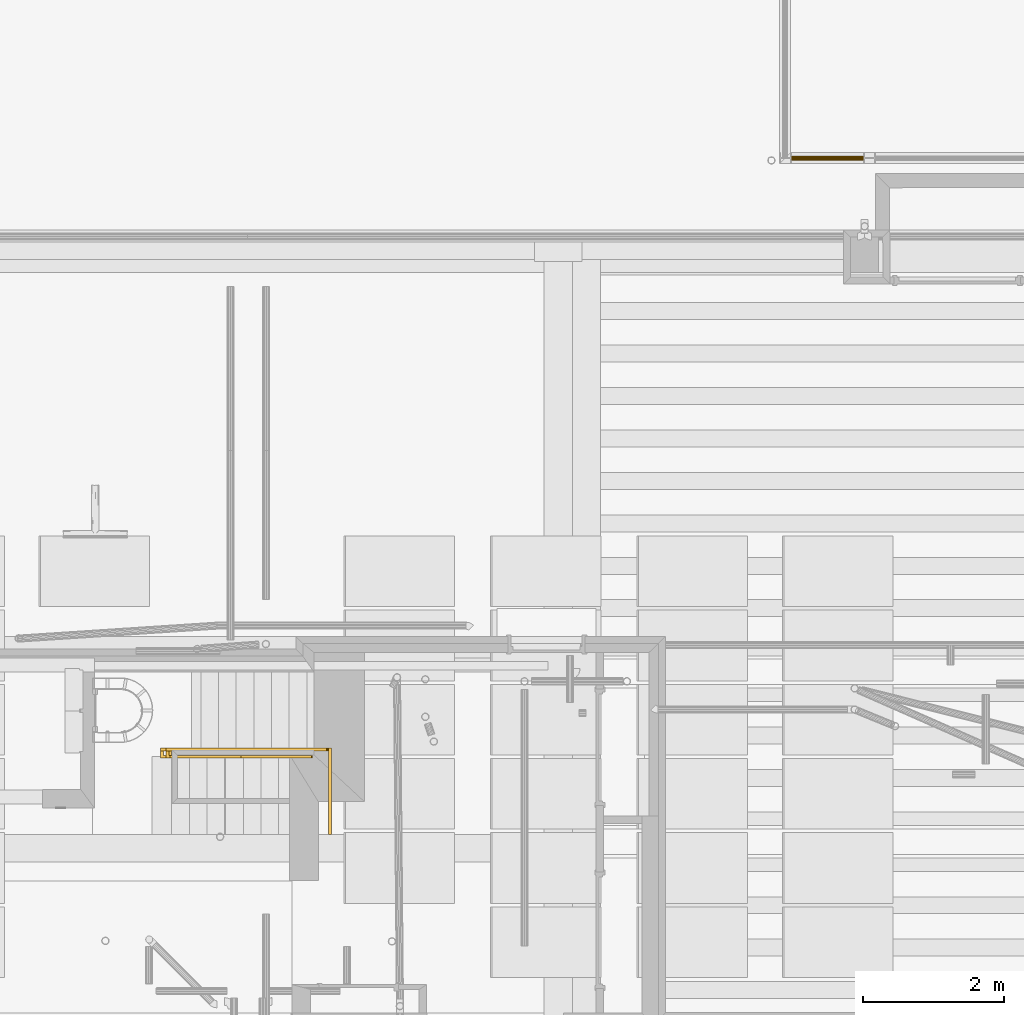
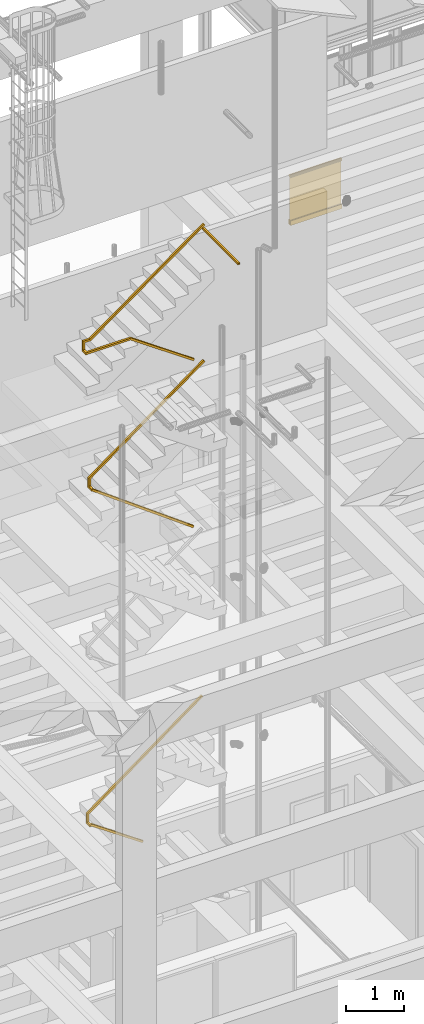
# One storey, part 30 of 106: 5 railings.
"""IFC2X3 building model written with IfcOpenShell, lengths in metres."""

from ifc_helpers import new_model, entity, si_unit, converted_unit, derived_unit, money_unit, direction, frame, origin_with_axes, place, context, subcontext, project, spatial, faceted_brep, material, type_object, element, save


model = new_model("IFC2X3")

# Units and contexts
model_context = context("Model", 3, precision=1e-05, world=origin_with_axes(), true_north=direction((0.0, 1.0)))
body_context = subcontext(model_context, "Body", "Model", "MODEL_VIEW", scale=1.0)
ifc_project = project(units=[si_unit("LENGTHUNIT", "METRE"), si_unit("AREAUNIT", "SQUARE_METRE"), si_unit("VOLUMEUNIT", "CUBIC_METRE"), si_unit("ABSORBEDDOSEUNIT", "GRAY"), si_unit("AMOUNTOFSUBSTANCEUNIT", "MOLE"), si_unit("DOSEEQUIVALENTUNIT", "SIEVERT"), si_unit("ELECTRICCAPACITANCEUNIT", "FARAD"), si_unit("ELECTRICCHARGEUNIT", "COULOMB"), si_unit("ELECTRICCONDUCTANCEUNIT", "SIEMENS"), si_unit("ELECTRICCURRENTUNIT", "AMPERE"), si_unit("ELECTRICRESISTANCEUNIT", "OHM"), si_unit("ELECTRICVOLTAGEUNIT", "VOLT"), si_unit("ENERGYUNIT", "JOULE"), si_unit("FORCEUNIT", "NEWTON"), si_unit("FREQUENCYUNIT", "HERTZ"), si_unit("ILLUMINANCEUNIT", "LUX"), si_unit("INDUCTANCEUNIT", "HENRY"), si_unit("LUMINOUSFLUXUNIT", "LUMEN"), si_unit("LUMINOUSINTENSITYUNIT", "CANDELA"), si_unit("MAGNETICFLUXDENSITYUNIT", "TESLA"), si_unit("MAGNETICFLUXUNIT", "WEBER"), si_unit("MASSUNIT", "GRAM"), converted_unit("PLANEANGLEUNIT", "degree", entity("IfcReal", 0.0174532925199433), si_unit("PLANEANGLEUNIT", "RADIAN"), dimensions=[0, 0, 0, 0, 0, 0, 0]), si_unit("POWERUNIT", "WATT"), si_unit("PRESSUREUNIT", "PASCAL"), si_unit("RADIOACTIVITYUNIT", "BECQUEREL"), si_unit("SOLIDANGLEUNIT", "STERADIAN"), si_unit("THERMODYNAMICTEMPERATUREUNIT", "KELVIN"), si_unit("TIMEUNIT", "SECOND"), derived_unit("ACCELERATIONUNIT", [(si_unit("LENGTHUNIT", "METRE"), 1), (si_unit("TIMEUNIT", "SECOND"), -2)]), derived_unit("ANGULARVELOCITYUNIT", [(converted_unit("PLANEANGLEUNIT", "degree", entity("IfcReal", 0.0174532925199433), si_unit("PLANEANGLEUNIT", "RADIAN"), dimensions=[0, 0, 0, 0, 0, 0, 0]), 1), (si_unit("TIMEUNIT", "SECOND"), -1)]), derived_unit("CURVATUREUNIT", [(converted_unit("PLANEANGLEUNIT", "degree", entity("IfcReal", 0.0174532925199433), si_unit("PLANEANGLEUNIT", "RADIAN"), dimensions=[0, 0, 0, 0, 0, 0, 0]), 1), (si_unit("LENGTHUNIT", "METRE"), -1)]), derived_unit("DYNAMICVISCOSITYUNIT", [(si_unit("PRESSUREUNIT", "PASCAL"), 1), (si_unit("TIMEUNIT", "SECOND"), 1)]), derived_unit("HEATFLUXDENSITYUNIT", [(si_unit("POWERUNIT", "WATT"), 1), (si_unit("LENGTHUNIT", "METRE"), -2)]), derived_unit("HEATINGVALUEUNIT", [(si_unit("ENERGYUNIT", "JOULE"), 1), (si_unit("MASSUNIT", "GRAM"), -1)]), derived_unit("INTEGERCOUNTRATEUNIT", [(si_unit("TIMEUNIT", "SECOND"), -1)]), derived_unit("IONCONCENTRATIONUNIT", [(si_unit("MASSUNIT", "GRAM"), 1), (si_unit("VOLUMEUNIT", "CUBIC_METRE"), -1)]), derived_unit("ISOTHERMALMOISTURECAPACITYUNIT", [(si_unit("VOLUMEUNIT", "CUBIC_METRE"), 1), (si_unit("MASSUNIT", "GRAM"), -1)]), derived_unit("KINEMATICVISCOSITYUNIT", [(si_unit("AREAUNIT", "SQUARE_METRE"), 1), (si_unit("TIMEUNIT", "SECOND"), -1)]), derived_unit("LINEARFORCEUNIT", [(si_unit("FORCEUNIT", "NEWTON"), 1), (si_unit("LENGTHUNIT", "METRE"), -1)]), derived_unit("LINEARMOMENTUNIT", [(si_unit("FORCEUNIT", "NEWTON"), 1), (si_unit("LENGTHUNIT", "METRE"), -1)]), derived_unit("LINEARSTIFFNESSUNIT", [(si_unit("FORCEUNIT", "NEWTON"), 1), (si_unit("LENGTHUNIT", "METRE"), -1)]), derived_unit("LINEARVELOCITYUNIT", [(si_unit("LENGTHUNIT", "METRE"), 1), (si_unit("TIMEUNIT", "SECOND"), -1)]), derived_unit("LUMINOUSINTENSITYDISTRIBUTIONUNIT", [(si_unit("LUMINOUSINTENSITYUNIT", "CANDELA"), 1), (si_unit("LUMINOUSFLUXUNIT", "LUMEN"), -1)]), derived_unit("MASSDENSITYUNIT", [(si_unit("MASSUNIT", "GRAM"), 1), (si_unit("VOLUMEUNIT", "CUBIC_METRE"), -1)]), derived_unit("MASSFLOWRATEUNIT", [(si_unit("MASSUNIT", "GRAM"), 1), (si_unit("TIMEUNIT", "SECOND"), -1)]), derived_unit("MASSPERLENGTHUNIT", [(si_unit("MASSUNIT", "GRAM"), 1), (si_unit("LENGTHUNIT", "METRE"), -1)]), derived_unit("MODULUSOFELASTICITYUNIT", [(si_unit("FORCEUNIT", "NEWTON"), 1), (si_unit("AREAUNIT", "SQUARE_METRE"), -1)]), derived_unit("MODULUSOFLINEARSUBGRADEREACTIONUNIT", [(si_unit("FORCEUNIT", "NEWTON"), 1), (si_unit("LENGTHUNIT", "METRE"), -2)]), derived_unit("MODULUSOFROTATIONALSUBGRADEREACTIONUNIT", [(si_unit("FORCEUNIT", "NEWTON"), 1), (si_unit("LENGTHUNIT", "METRE"), 1)]), derived_unit("MODULUSOFSUBGRADEREACTIONUNIT", [(si_unit("FORCEUNIT", "NEWTON"), 1), (si_unit("VOLUMEUNIT", "CUBIC_METRE"), -1)]), derived_unit("MOISTUREDIFFUSIVITYUNIT", [(si_unit("VOLUMEUNIT", "CUBIC_METRE"), 1), (si_unit("TIMEUNIT", "SECOND"), -1)]), derived_unit("MOLECULARWEIGHTUNIT", [(si_unit("MASSUNIT", "GRAM"), 1), (si_unit("AMOUNTOFSUBSTANCEUNIT", "MOLE"), -1)]), derived_unit("PLANARFORCEUNIT", [(si_unit("FORCEUNIT", "NEWTON"), 1), (si_unit("LENGTHUNIT", "METRE"), -2)]), derived_unit("ROTATIONALFREQUENCYUNIT", [(si_unit("TIMEUNIT", "SECOND"), -1)]), derived_unit("ROTATIONALMASSUNIT", [(si_unit("MASSUNIT", "GRAM"), 1), (si_unit("LENGTHUNIT", "METRE"), 2)]), derived_unit("ROTATIONALSTIFFNESSUNIT", [(si_unit("FORCEUNIT", "NEWTON"), 1), (si_unit("LENGTHUNIT", "METRE"), 1), (converted_unit("PLANEANGLEUNIT", "degree", entity("IfcReal", 0.0174532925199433), si_unit("PLANEANGLEUNIT", "RADIAN"), dimensions=[0, 0, 0, 0, 0, 0, 0]), -1)]), derived_unit("SECTIONAREAINTEGRALUNIT", [(si_unit("LENGTHUNIT", "METRE"), 5)]), derived_unit("SECTIONMODULUSUNIT", [(si_unit("LENGTHUNIT", "METRE"), 3)]), derived_unit("SHEARMODULUSUNIT", [(si_unit("FORCEUNIT", "NEWTON"), 1), (si_unit("AREAUNIT", "SQUARE_METRE"), -1)]), derived_unit("SOUNDPOWERUNIT", [(si_unit("ENERGYUNIT", "JOULE"), 1), (si_unit("TIMEUNIT", "SECOND"), -1)]), derived_unit("SPECIFICHEATCAPACITYUNIT", [(si_unit("FORCEUNIT", "NEWTON"), 1), (si_unit("MASSUNIT", "GRAM"), -1), (si_unit("THERMODYNAMICTEMPERATUREUNIT", "KELVIN"), -1)]), derived_unit("TEMPERATUREGRADIENTUNIT", [(si_unit("THERMODYNAMICTEMPERATUREUNIT", "KELVIN"), 1), (si_unit("LENGTHUNIT", "METRE"), -1)]), derived_unit("THERMALADMITTANCEUNIT", [(si_unit("POWERUNIT", "WATT"), 1), (si_unit("AREAUNIT", "SQUARE_METRE"), -1), (si_unit("THERMODYNAMICTEMPERATUREUNIT", "KELVIN"), -1)]), derived_unit("THERMALCONDUCTANCEUNIT", [(si_unit("POWERUNIT", "WATT"), 1), (si_unit("LENGTHUNIT", "METRE"), -1), (si_unit("THERMODYNAMICTEMPERATUREUNIT", "KELVIN"), -1)]), derived_unit("THERMALEXPANSIONCOEFFICIENTUNIT", [(si_unit("THERMODYNAMICTEMPERATUREUNIT", "KELVIN"), -1)]), derived_unit("THERMALRESISTANCEUNIT", [(si_unit("AREAUNIT", "SQUARE_METRE"), 1), (si_unit("POWERUNIT", "WATT"), -1)]), derived_unit("THERMALTRANSMITTANCEUNIT", [(si_unit("POWERUNIT", "WATT"), 1), (si_unit("AREAUNIT", "SQUARE_METRE"), -1), (si_unit("THERMODYNAMICTEMPERATUREUNIT", "KELVIN"), -1)]), derived_unit("TORQUEUNIT", [(si_unit("FORCEUNIT", "NEWTON"), 1), (si_unit("LENGTHUNIT", "METRE"), 1)]), derived_unit("VAPORPERMEABILITYUNIT", [(si_unit("MASSUNIT", "GRAM"), 1), (si_unit("TIMEUNIT", "SECOND"), -1)]), derived_unit("VOLUMETRICFLOWRATEUNIT", [(si_unit("VOLUMEUNIT", "CUBIC_METRE"), 1), (si_unit("TIMEUNIT", "SECOND"), -1)]), derived_unit("WARPINGCONSTANTUNIT", [(si_unit("LENGTHUNIT", "METRE"), 6)]), derived_unit("WARPINGMOMENTUNIT", [(si_unit("FORCEUNIT", "NEWTON"), 1), (si_unit("LENGTHUNIT", "METRE"), 2)]), money_unit("GBP")], contexts=[model_context])

# Site, building, storey
site_placement = place(None, origin_with_axes())
site = spatial("IfcSite", under=ifc_project, at=site_placement, Name="Site", CompositionType="ELEMENT")
building_placement = place(site_placement, origin_with_axes())
building = spatial("IfcBuilding", under=site, at=building_placement, Name="Building01", CompositionType="ELEMENT")
storey_placement = place(building_placement, origin_with_axes())
storey = spatial("IfcBuildingStorey", under=building, at=storey_placement, Name="GF", CompositionType="ELEMENT", Elevation=0.0)

# Railings
ifc_material = material(Name="A_BSUK_Steel_Miscellaneous")
railing_type_1 = type_object("IfcRailingType", Name="A-Handrail-900mm", PredefinedType="NOTDEFINED")
railing_1_placement = place(storey_placement, frame((14.65313, 7.55, 15.08), z_axis=(0.0, 0.0, 1.0), x_axis=(1.0, 0.0, 0.0)))
element("IfcRailing", 1, at=railing_1_placement, inside=storey, type_object=railing_type_1, material=ifc_material, Name="A-Handrail-900mm", ObjectType="A-Handrail-900mm", PredefinedType="HANDRAIL", context=body_context, shape_type="Brep", body=[
    faceted_brep([(-0.726628, -0.02, 0.327539), (-0.75, -0.02, 0.36), (-0.75, 0.02, 0.36), (-0.726628, 0.02, 0.327539), (-0.728965, -0.016, 0.330785), (-0.728965, 0.016, 0.330785), (-0.747663, 0.016, 0.356754), (-0.747663, -0.016, 0.356754), (0.023372, 0.02, 0.867539), (0.0, 0.02, 0.9), (0.0, -0.02, 0.9), (0.023372, -0.02, 0.867539), (0.021035, -0.016, 0.870785), (0.002337, -0.016, 0.896754), (0.002337, 0.016, 0.896754), (0.021035, 0.016, 0.870785)], [[[0, 1, 2, 3], [4, 5, 6, 7]], [[8, 9, 10, 11], [12, 13, 14, 15]], [[11, 0, 3, 8]], [[10, 1, 0, 11]], [[9, 2, 1, 10]], [[8, 3, 2, 9]], [[15, 5, 4, 12]], [[12, 4, 7, 13]], [[13, 7, 6, 14]], [[14, 6, 5, 15]]]),
    faceted_brep([(-1.476628, -0.02, -0.212461), (-1.5, -0.02, -0.18), (-1.5, 0.02, -0.18), (-1.476628, 0.02, -0.212461), (-1.478965, -0.016, -0.209215), (-1.478965, 0.016, -0.209215), (-1.497663, 0.016, -0.183246), (-1.497663, -0.016, -0.183246), (-0.726628, 0.02, 0.327539), (-0.75, 0.02, 0.36), (-0.75, -0.02, 0.36), (-0.726628, -0.02, 0.327539), (-0.728965, -0.016, 0.330785), (-0.747663, -0.016, 0.356754), (-0.747663, 0.016, 0.356754), (-0.728965, 0.016, 0.330785)], [[[0, 1, 2, 3], [4, 5, 6, 7]], [[8, 9, 10, 11], [12, 13, 14, 15]], [[11, 0, 3, 8]], [[10, 1, 0, 11]], [[9, 2, 1, 10]], [[8, 3, 2, 9]], [[15, 5, 4, 12]], [[12, 4, 7, 13]], [[13, 7, 6, 14]], [[14, 6, 5, 15]]]),
    faceted_brep([(-1.476628, 0.02, -0.212461), (-1.5, 0.02, -0.18), (-1.5, -0.02, -0.18), (-1.476628, -0.02, -0.212461), (-1.478965, -0.016, -0.209215), (-1.497663, -0.016, -0.183246), (-1.497663, 0.016, -0.183246), (-1.478965, 0.016, -0.209215), (-2.237098, -0.02, -0.76), (-2.237098, 0.02, -0.76), (-2.25, -0.02, -0.72), (-2.25, 0.02, -0.72), (-2.238388, -0.016, -0.756), (-2.238388, 0.016, -0.756), (-2.24871, -0.016, -0.724), (-2.24871, 0.016, -0.724)], [[[0, 1, 2, 3], [4, 5, 6, 7]], [[8, 9, 0, 3]], [[10, 8, 3, 2]], [[11, 10, 2, 1]], [[9, 11, 1, 0]], [[12, 4, 7, 13]], [[14, 5, 4, 12]], [[15, 6, 5, 14]], [[13, 7, 6, 15]], [[8, 10, 11, 9], [12, 13, 15, 14]]]),
    faceted_brep([(-2.35233, -0.02, -0.76), (-2.35233, 0.02, -0.76), (-2.237098, 0.02, -0.76), (-2.237098, -0.02, -0.76), (-2.39233, -0.02, -0.72), (-2.25, -0.02, -0.72), (-2.25, 0.02, -0.72), (-2.39233, 0.02, -0.72), (-2.35633, -0.016, -0.756), (-2.238388, -0.016, -0.756), (-2.238388, 0.016, -0.756), (-2.35633, 0.016, -0.756), (-2.38833, -0.016, -0.724), (-2.24871, -0.016, -0.724), (-2.38833, 0.016, -0.724), (-2.24871, 0.016, -0.724)], [[[0, 1, 2, 3]], [[4, 0, 3, 5]], [[5, 6, 7, 4]], [[1, 7, 6, 2]], [[8, 9, 10, 11]], [[12, 13, 9, 8]], [[14, 15, 13, 12]], [[11, 10, 15, 14]], [[2, 6, 5, 3], [10, 9, 13, 15]], [[0, 4, 7, 1], [8, 11, 14, 12]]]),
    faceted_brep([(-2.39233, 0.02, -0.72), (-2.35233, 0.02, -0.76), (-2.35233, 0.02, -0.94), (-2.39233, 0.02, -0.94), (-2.35233, -0.02, -0.9), (-2.35233, -0.02, -0.76), (-2.39233, -0.02, -0.9), (-2.39233, -0.02, -0.72), (-2.35633, 0.016, -0.936), (-2.35633, 0.016, -0.756), (-2.38833, 0.016, -0.724), (-2.38833, 0.016, -0.936), (-2.35633, -0.016, -0.904), (-2.35633, -0.016, -0.756), (-2.38833, -0.016, -0.904), (-2.38833, -0.016, -0.724)], [[[0, 1, 2, 3]], [[4, 2, 1, 5]], [[6, 4, 5, 7]], [[3, 6, 7, 0]], [[8, 9, 10, 11]], [[12, 13, 9, 8]], [[14, 15, 13, 12]], [[11, 10, 15, 14]], [[0, 7, 5, 1], [10, 9, 13, 15]], [[2, 4, 6, 3], [8, 11, 14, 12]]]),
    faceted_brep([(-2.35233, -0.079237, -0.94), (-2.39233, -0.119237, -0.94), (-2.39233, 0.02, -0.94), (-2.35233, 0.02, -0.94), (-2.35233, -0.079237, -0.9), (-2.35233, -0.02, -0.9), (-2.39233, -0.119237, -0.9), (-2.39233, -0.02, -0.9), (-2.35633, -0.083237, -0.936), (-2.35633, 0.016, -0.936), (-2.38833, 0.016, -0.936), (-2.38833, -0.115237, -0.936), (-2.35633, -0.083237, -0.904), (-2.35633, -0.016, -0.904), (-2.38833, -0.115237, -0.904), (-2.38833, -0.016, -0.904)], [[[0, 1, 2, 3]], [[4, 0, 3, 5]], [[6, 4, 5, 7]], [[7, 2, 1, 6]], [[8, 9, 10, 11]], [[12, 13, 9, 8]], [[14, 15, 13, 12]], [[11, 10, 15, 14]], [[2, 7, 5, 3], [10, 9, 13, 15]], [[0, 4, 6, 1], [8, 11, 14, 12]]]),
    faceted_brep([(-1.50988, -0.079237, -0.94), (-1.50988, -0.119237, -0.94), (-2.39233, -0.119237, -0.94), (-2.35233, -0.079237, -0.94), (-1.497272, -0.079237, -0.9), (-2.35233, -0.079237, -0.9), (-2.39233, -0.119237, -0.9), (-1.497272, -0.119237, -0.9), (-1.50862, -0.083237, -0.936), (-2.35633, -0.083237, -0.936), (-2.38833, -0.115237, -0.936), (-1.50862, -0.115237, -0.936), (-1.498532, -0.083237, -0.904), (-2.35633, -0.083237, -0.904), (-1.498532, -0.115237, -0.904), (-2.38833, -0.115237, -0.904)], [[[0, 1, 2, 3]], [[4, 0, 3, 5]], [[5, 6, 7, 4]], [[1, 7, 6, 2]], [[8, 9, 10, 11]], [[12, 13, 9, 8]], [[14, 15, 13, 12]], [[11, 10, 15, 14]], [[2, 6, 5, 3], [10, 9, 13, 15]], [[0, 4, 7, 1], [8, 11, 14, 12]]]),
    faceted_brep([(-1.02021, -0.079237, -1.282769), (-0.997272, -0.079237, -1.25), (-0.997272, -0.119237, -1.25), (-1.02021, -0.119237, -1.282769), (-1.017916, -0.083237, -1.279492), (-1.017916, -0.115237, -1.279492), (-0.999565, -0.115237, -1.253277), (-0.999565, -0.083237, -1.253277), (-1.50988, -0.119237, -0.94), (-1.50988, -0.079237, -0.94), (-1.497272, -0.079237, -0.9), (-1.497272, -0.119237, -0.9), (-1.50862, -0.115237, -0.936), (-1.50862, -0.083237, -0.936), (-1.498532, -0.083237, -0.904), (-1.498532, -0.115237, -0.904)], [[[0, 1, 2, 3], [4, 5, 6, 7]], [[8, 9, 0, 3]], [[9, 10, 1, 0]], [[10, 11, 2, 1]], [[11, 8, 3, 2]], [[12, 5, 4, 13]], [[13, 4, 7, 14]], [[14, 7, 6, 15]], [[15, 6, 5, 12]], [[8, 11, 10, 9], [12, 13, 14, 15]]]),
    faceted_brep([(-0.27021, -0.079237, -1.807769), (-0.247272, -0.079237, -1.775), (-0.247272, -0.119237, -1.775), (-0.27021, -0.119237, -1.807769), (-0.267916, -0.083237, -1.804492), (-0.267916, -0.115237, -1.804492), (-0.249565, -0.115237, -1.778277), (-0.249565, -0.083237, -1.778277), (-1.02021, -0.119237, -1.282769), (-0.997272, -0.119237, -1.25), (-0.997272, -0.079237, -1.25), (-1.02021, -0.079237, -1.282769), (-1.017916, -0.083237, -1.279492), (-0.999565, -0.083237, -1.253277), (-0.999565, -0.115237, -1.253277), (-1.017916, -0.115237, -1.279492)], [[[0, 1, 2, 3], [4, 5, 6, 7]], [[8, 9, 10, 11], [12, 13, 14, 15]], [[11, 0, 3, 8]], [[10, 1, 0, 11]], [[9, 2, 1, 10]], [[8, 3, 2, 9]], [[15, 5, 4, 12]], [[12, 4, 7, 13]], [[13, 7, 6, 14]], [[14, 6, 5, 15]]]),
])
railing_2_placement = place(storey_placement, frame((14.647097, 7.55, 12.23), z_axis=(0.0, 0.0, 1.0), x_axis=(1.0, 0.0, 0.0)))
element("IfcRailing", 2, at=railing_2_placement, inside=storey, type_object=railing_type_1, material=ifc_material, Name="A-Handrail-900mm", ObjectType="A-Handrail-900mm", PredefinedType="HANDRAIL", context=body_context, shape_type="Brep", body=[
    faceted_brep([(0.023684, 0.021, 0.867765), (0.0, 0.021, 0.9), (0.0, -0.019, 0.9), (0.023684, -0.019, 0.867765), (0.021316, -0.015, 0.870989), (0.002368, -0.015, 0.896777), (0.002368, 0.017, 0.896777), (0.021316, 0.017, 0.870989), (-2.231, -0.019, -0.788834), (-2.231, 0.021, -0.788834), (-2.271, -0.019, -0.768587), (-2.271, 0.021, -0.768587), (-2.235, -0.015, -0.786809), (-2.235, 0.017, -0.786809), (-2.267, -0.015, -0.770612), (-2.267, 0.017, -0.770612)], [[[0, 1, 2, 3], [4, 5, 6, 7]], [[8, 9, 0, 3]], [[10, 8, 3, 2]], [[11, 10, 2, 1]], [[9, 11, 1, 0]], [[12, 4, 7, 13]], [[14, 5, 4, 12]], [[15, 6, 5, 14]], [[13, 7, 6, 15]], [[8, 10, 11, 9], [12, 13, 15, 14]]]),
    faceted_brep([(-2.271, 0.021, -0.768587), (-2.231, 0.021, -0.788834), (-2.231, 0.021, -0.976842), (-2.271, 0.021, -0.976842), (-2.231, -0.019, -0.936842), (-2.231, -0.019, -0.788834), (-2.271, -0.019, -0.936842), (-2.271, -0.019, -0.768587), (-2.235, 0.017, -0.972842), (-2.235, 0.017, -0.786809), (-2.267, 0.017, -0.770612), (-2.267, 0.017, -0.972842), (-2.235, -0.015, -0.940842), (-2.235, -0.015, -0.786809), (-2.267, -0.015, -0.940842), (-2.267, -0.015, -0.770612)], [[[0, 1, 2, 3]], [[4, 2, 1, 5]], [[6, 4, 5, 7]], [[3, 6, 7, 0]], [[8, 9, 10, 11]], [[12, 13, 9, 8]], [[14, 15, 13, 12]], [[11, 10, 15, 14]], [[0, 7, 5, 1], [10, 9, 13, 15]], [[2, 4, 6, 3], [8, 11, 14, 12]]]),
    faceted_brep([(-2.231, -0.081, -0.976842), (-2.271, -0.121, -0.976842), (-2.271, 0.021, -0.976842), (-2.231, 0.021, -0.976842), (-2.231, -0.081, -0.936842), (-2.231, -0.019, -0.936842), (-2.271, -0.121, -0.936842), (-2.271, -0.019, -0.936842), (-2.235, -0.085, -0.972842), (-2.235, 0.017, -0.972842), (-2.267, 0.017, -0.972842), (-2.267, -0.117, -0.972842), (-2.235, -0.085, -0.940842), (-2.235, -0.015, -0.940842), (-2.267, -0.117, -0.940842), (-2.267, -0.015, -0.940842)], [[[0, 1, 2, 3]], [[4, 0, 3, 5]], [[6, 4, 5, 7]], [[7, 2, 1, 6]], [[8, 9, 10, 11]], [[12, 13, 9, 8]], [[14, 15, 13, 12]], [[11, 10, 15, 14]], [[2, 7, 5, 3], [10, 9, 13, 15]], [[0, 4, 6, 1], [8, 11, 14, 12]]]),
    faceted_brep([(-2.263115, -0.121, -0.976842), (-2.263115, -0.113115, -0.976842), (-2.261804, -0.111804, -0.972842), (-2.261804, -0.117, -0.972842), (-2.251312, -0.117, -0.940842), (-2.251312, -0.101312, -0.940842), (-2.25, -0.1, -0.936842), (-2.25, -0.121, -0.936842), (-2.267, -0.117, -0.940842), (-2.267, -0.117, -0.972842), (-2.271, -0.121, -0.976842), (-2.271, -0.121, -0.936842)], [[[0, 1, 2, 3, 4, 5, 6, 7]], [[6, 5, 8, 9, 2, 1, 10, 11]], [[1, 0, 10]], [[6, 11, 7]], [[0, 7, 11, 10]], [[2, 9, 3]], [[4, 8, 5]], [[3, 9, 8, 4]]]),
    faceted_brep([(-2.023684, -0.081, -1.152761), (-2.0, -0.081, -1.120526), (-2.0, -0.121, -1.120526), (-2.023684, -0.121, -1.152761), (-2.021316, -0.085, -1.149537), (-2.021316, -0.117, -1.149537), (-2.002368, -0.117, -1.12375), (-2.002368, -0.085, -1.12375), (-2.263115, -0.121, -0.976842), (-2.263115, -0.081, -0.976842), (-2.25, -0.081, -0.936842), (-2.25, -0.121, -0.936842), (-2.261804, -0.117, -0.972842), (-2.261804, -0.085, -0.972842), (-2.251312, -0.085, -0.940842), (-2.251312, -0.117, -0.940842)], [[[0, 1, 2, 3], [4, 5, 6, 7]], [[8, 9, 0, 3]], [[9, 10, 1, 0]], [[10, 11, 2, 1]], [[11, 8, 3, 2]], [[12, 5, 4, 13]], [[13, 4, 7, 14]], [[14, 7, 6, 15]], [[15, 6, 5, 12]], [[8, 11, 10, 9], [12, 13, 14, 15]]]),
    faceted_brep([(-0.273684, -0.081, -2.43855), (-0.25, -0.081, -2.406316), (-0.25, -0.121, -2.406316), (-0.273684, -0.121, -2.43855), (-0.271316, -0.085, -2.435327), (-0.271316, -0.117, -2.435327), (-0.252368, -0.117, -2.409539), (-0.252368, -0.085, -2.409539), (-2.023684, -0.121, -1.152761), (-2.0, -0.121, -1.120526), (-2.0, -0.081, -1.120526), (-2.023684, -0.081, -1.152761), (-2.021316, -0.085, -1.149537), (-2.002368, -0.085, -1.12375), (-2.002368, -0.117, -1.12375), (-2.021316, -0.117, -1.149537)], [[[0, 1, 2, 3], [4, 5, 6, 7]], [[8, 9, 10, 11], [12, 13, 14, 15]], [[11, 0, 3, 8]], [[10, 1, 0, 11]], [[9, 2, 1, 10]], [[8, 3, 2, 9]], [[15, 5, 4, 12]], [[12, 4, 7, 13]], [[13, 7, 6, 14]], [[14, 6, 5, 15]]]),
])
railing_3_placement = place(storey_placement, frame((14.609584, 7.55, 5.25), z_axis=(0.0, 0.0, 1.0), x_axis=(1.0, 0.0, 0.0)))
element("IfcRailing", 3, at=railing_3_placement, inside=storey, type_object=railing_type_1, material=ifc_material, Name="A-Handrail-900mm", ObjectType="A-Handrail-900mm", PredefinedType="HANDRAIL", context=body_context, shape_type="Brep", body=[
    faceted_brep([(-0.726206, -0.02, 0.312846), (-0.75, -0.02, 0.345), (-0.75, 0.02, 0.345), (-0.726206, 0.02, 0.312846), (-0.728586, -0.016, 0.316062), (-0.728586, 0.016, 0.316062), (-0.747621, 0.016, 0.341785), (-0.747621, -0.016, 0.341785), (0.023794, 0.02, 0.867846), (0.0, 0.02, 0.9), (0.0, -0.02, 0.9), (0.023794, -0.02, 0.867846), (0.021414, -0.016, 0.871062), (0.002379, -0.016, 0.896785), (0.002379, 0.016, 0.896785), (0.021414, 0.016, 0.871062)], [[[0, 1, 2, 3], [4, 5, 6, 7]], [[8, 9, 10, 11], [12, 13, 14, 15]], [[11, 0, 3, 8]], [[10, 1, 0, 11]], [[9, 2, 1, 10]], [[8, 3, 2, 9]], [[15, 5, 4, 12]], [[12, 4, 7, 13]], [[13, 7, 6, 14]], [[14, 6, 5, 15]]]),
    faceted_brep([(-1.476206, -0.02, -0.242154), (-1.5, -0.02, -0.21), (-1.5, 0.02, -0.21), (-1.476206, 0.02, -0.242154), (-1.478586, -0.016, -0.238938), (-1.478586, 0.016, -0.238938), (-1.497621, 0.016, -0.213215), (-1.497621, -0.016, -0.213215), (-0.726206, 0.02, 0.312846), (-0.75, 0.02, 0.345), (-0.75, -0.02, 0.345), (-0.726206, -0.02, 0.312846), (-0.728586, -0.016, 0.316062), (-0.747621, -0.016, 0.341785), (-0.747621, 0.016, 0.341785), (-0.728586, 0.016, 0.316062)], [[[0, 1, 2, 3], [4, 5, 6, 7]], [[8, 9, 10, 11], [12, 13, 14, 15]], [[11, 0, 3, 8]], [[10, 1, 0, 11]], [[9, 2, 1, 10]], [[8, 3, 2, 9]], [[15, 5, 4, 12]], [[12, 4, 7, 13]], [[13, 7, 6, 14]], [[14, 6, 5, 15]]]),
    faceted_brep([(-1.476206, 0.02, -0.242154), (-1.5, 0.02, -0.21), (-1.5, -0.02, -0.21), (-1.476206, -0.02, -0.242154), (-1.478586, -0.016, -0.238938), (-1.497621, -0.016, -0.213215), (-1.497621, 0.016, -0.213215), (-1.478586, 0.016, -0.238938), (-2.23, -0.02, -0.799961), (-2.23, 0.02, -0.799961), (-2.27, -0.02, -0.7798), (-2.27, 0.02, -0.7798), (-2.234, -0.016, -0.797945), (-2.234, 0.016, -0.797945), (-2.266, -0.016, -0.781816), (-2.266, 0.016, -0.781816)], [[[0, 1, 2, 3], [4, 5, 6, 7]], [[8, 9, 0, 3]], [[10, 8, 3, 2]], [[11, 10, 2, 1]], [[9, 11, 1, 0]], [[12, 4, 7, 13]], [[14, 5, 4, 12]], [[15, 6, 5, 14]], [[13, 7, 6, 15]], [[8, 10, 11, 9], [12, 13, 15, 14]]]),
    faceted_brep([(-2.27, 0.02, -0.7798), (-2.23, 0.02, -0.799961), (-2.23, 0.02, -0.99), (-2.27, 0.02, -0.99), (-2.23, -0.02, -0.95), (-2.23, -0.02, -0.799961), (-2.27, -0.02, -0.95), (-2.27, -0.02, -0.7798), (-2.234, 0.016, -0.986), (-2.234, 0.016, -0.797945), (-2.266, 0.016, -0.781816), (-2.266, 0.016, -0.986), (-2.234, -0.016, -0.954), (-2.234, -0.016, -0.797945), (-2.266, -0.016, -0.954), (-2.266, -0.016, -0.781816)], [[[0, 1, 2, 3]], [[4, 2, 1, 5]], [[6, 4, 5, 7]], [[3, 6, 7, 0]], [[8, 9, 10, 11]], [[12, 13, 9, 8]], [[14, 15, 13, 12]], [[11, 10, 15, 14]], [[0, 7, 5, 1], [10, 9, 13, 15]], [[2, 4, 6, 3], [8, 11, 14, 12]]]),
    faceted_brep([(-2.23, -0.079981, -0.990001), (-2.27, -0.119981, -0.990002), (-2.27, 0.02, -0.99), (-2.23, 0.02, -0.99), (-2.23, -0.080019, -0.950001), (-2.23, -0.02, -0.95), (-2.27, -0.120019, -0.950002), (-2.27, -0.02, -0.95), (-2.234, -0.083985, -0.986001), (-2.234, 0.016, -0.986), (-2.266, 0.016, -0.986), (-2.266, -0.115985, -0.986001), (-2.234, -0.084015, -0.954001), (-2.234, -0.016, -0.954), (-2.266, -0.116015, -0.954001), (-2.266, -0.016, -0.954)], [[[0, 1, 2, 3]], [[4, 0, 3, 5]], [[6, 4, 5, 7]], [[1, 6, 7, 2]], [[8, 9, 10, 11]], [[12, 13, 9, 8]], [[14, 15, 13, 12]], [[11, 10, 15, 14]], [[2, 7, 5, 3], [10, 9, 13, 15]], [[0, 4, 6, 1], [8, 11, 14, 12]]]),
    faceted_brep([(-2.230669, -0.08065, -0.990019), (-2.230669, -0.12, -0.990019), (-2.270019, -0.12, -0.989983), (-2.218103, -0.08, -0.950031), (-2.230017, -0.08, -0.987943), (-2.229981, -0.08, -0.95002), (-2.218103, -0.12, -0.950031), (-2.269981, -0.12, -0.949983), (-2.229413, -0.084, -0.98602), (-2.234015, -0.084, -0.986016), (-2.266015, -0.116, -0.985987), (-2.229413, -0.116, -0.98602), (-2.219359, -0.084, -0.954029), (-2.233985, -0.084, -0.954016), (-2.21936, -0.116, -0.954029), (-2.265985, -0.116, -0.953987)], [[[0, 1, 2]], [[3, 4, 5]], [[6, 3, 5, 7]], [[1, 6, 7, 2]], [[8, 9, 10, 11]], [[12, 13, 9, 8]], [[14, 15, 13, 12]], [[11, 10, 15, 14]], [[4, 0, 2, 7, 5], [10, 9, 13, 15]], [[6, 1, 0, 4, 3], [8, 11, 14, 12]]]),
    faceted_brep([(-1.235486, -0.08002, -1.682666), (-1.212636, -0.08002, -1.649835), (-1.212636, -0.12002, -1.649835), (-1.235487, -0.12002, -1.682666), (-1.233201, -0.08402, -1.679383), (-1.233202, -0.11602, -1.679383), (-1.214921, -0.11602, -1.653118), (-1.214921, -0.08402, -1.653118), (-2.23067, -0.12, -0.990019), (-2.230669, -0.08, -0.990019), (-2.218103, -0.08, -0.95003), (-2.218103, -0.12, -0.950031), (-2.229413, -0.116, -0.98602), (-2.229412, -0.084, -0.98602), (-2.219359, -0.084, -0.954029), (-2.21936, -0.116, -0.95403)], [[[0, 1, 2, 3], [4, 5, 6, 7]], [[8, 9, 0, 3]], [[9, 10, 1, 0]], [[10, 11, 2, 1]], [[11, 8, 3, 2]], [[12, 5, 4, 13]], [[13, 4, 7, 14]], [[14, 7, 6, 15]], [[15, 6, 5, 12]], [[8, 11, 10, 9], [12, 13, 14, 15]]]),
])
railing_type_2 = type_object("IfcRailingType", Name="A-RailingGlassPanel-1050mm", PredefinedType="NOTDEFINED")
railing_4_placement = place(storey_placement, frame((22.199835, 15.915881, 8.587442), z_axis=(0.0, 0.0, 1.0), x_axis=(1.0, 0.0, 0.0)))
element("IfcRailing", 4, at=railing_4_placement, inside=storey, type_object=railing_type_2, material=ifc_material, Name="A-RailingGlassPanel-1050mm", ObjectType="A-RailingGlassPanel-1050mm", PredefinedType="HANDRAIL", context=body_context, shape_type="Brep", body=[
    faceted_brep([(-1.018201, -0.0125, 0.9875), (0.0, -0.0125, 0.9875), (0.0, -0.023022, 0.99456), (-1.018201, -0.023022, 0.99456), (0.0, -0.030045, 1.005108), (-1.018201, -0.030045, 1.005108), (0.0, -0.0325, 1.017539), (-1.018201, -0.0325, 1.017539), (0.0, -0.030015, 1.029964), (-1.018201, -0.030015, 1.029964), (0.0, -0.022967, 1.040495), (-1.018201, -0.022967, 1.040495), (0.0, -0.012428, 1.04753), (-1.018201, -0.012428, 1.04753), (0.0, 0.0, 1.05), (-1.018201, 0.0, 1.05), (0.0, 0.012428, 1.04753), (-1.018201, 0.012428, 1.04753), (0.0, 0.022967, 1.040495), (-1.018201, 0.022967, 1.040495), (0.0, 0.030015, 1.029964), (-1.018201, 0.030015, 1.029964), (0.0, 0.0325, 1.017539), (-1.018201, 0.0325, 1.017539), (0.0, 0.030045, 1.005108), (-1.018201, 0.030045, 1.005108), (0.0, 0.023022, 0.99456), (-1.018201, 0.023022, 0.99456), (0.0, 0.0125, 0.9875), (-1.018201, 0.0125, 0.9875), (-1.018201, -0.0125, 1.0125), (0.0, -0.0125, 1.0125), (-1.018201, 0.0125, 1.0125), (0.0, 0.0125, 1.0125)], [[[0, 1, 2, 3]], [[3, 2, 4, 5]], [[5, 4, 6, 7]], [[7, 6, 8, 9]], [[9, 8, 10, 11]], [[11, 10, 12, 13]], [[13, 12, 14, 15]], [[15, 14, 16, 17]], [[17, 16, 18, 19]], [[19, 18, 20, 21]], [[21, 20, 22, 23]], [[23, 22, 24, 25]], [[25, 24, 26, 27]], [[27, 26, 28, 29]], [[0, 30, 31, 1]], [[30, 32, 33, 31]], [[32, 30, 0, 3, 5, 7, 9, 11, 13, 15, 17, 19, 21, 23, 25, 27, 29]], [[32, 29, 28, 33]], [[28, 26, 24, 22, 20, 18, 16, 14, 12, 10, 8, 6, 4, 2, 1, 31, 33]]]),
    faceted_brep([(-1.018201, -0.0295, 0.099925), (0.0, -0.0295, 0.099925), (0.0, -0.0125, 0.099925), (-1.018201, -0.0125, 0.099925), (-1.018201, -0.0325, 0.096925), (0.0, -0.0325, 0.096925), (0.0, -0.032272, 0.098073), (-1.018201, -0.032272, 0.098073), (0.0, -0.031621, 0.099046), (-1.018201, -0.031621, 0.099046), (0.0, -0.030648, 0.099697), (-1.018201, -0.030648, 0.099697), (-1.018201, -0.0325, 0.003), (0.0, -0.0325, 0.003), (-1.018201, -0.0295, 0.0), (-1.018201, -0.030648, 0.000228), (-1.018201, -0.031621, 0.000879), (-1.018201, -0.032272, 0.001852), (-1.018201, -0.0125, 0.01), (-1.018201, 0.0125, 0.01), (-1.018201, 0.0125, 0.099925), (-1.018201, 0.0295, 0.099925), (-1.018201, 0.030648, 0.099697), (-1.018201, 0.031621, 0.099046), (-1.018201, 0.032272, 0.098073), (-1.018201, 0.0325, 0.096925), (-1.018201, 0.0325, 0.003), (-1.018201, 0.032272, 0.001852), (-1.018201, 0.031621, 0.000879), (-1.018201, 0.030648, 0.000228), (-1.018201, 0.0295, 0.0), (0.0, 0.0295, 0.0), (0.0, 0.030648, 0.000228), (0.0, 0.031621, 0.000879), (0.0, 0.032272, 0.001852), (0.0, 0.0325, 0.003), (0.0, 0.0325, 0.096925), (0.0, 0.032272, 0.098073), (0.0, 0.031621, 0.099046), (0.0, 0.030648, 0.099697), (0.0, 0.0295, 0.099925), (0.0, 0.0125, 0.099925), (0.0, 0.0125, 0.01), (0.0, -0.0125, 0.01), (0.0, -0.032272, 0.001852), (0.0, -0.031621, 0.000879), (0.0, -0.030648, 0.000228), (0.0, -0.0295, 0.0)], [[[0, 1, 2, 3]], [[4, 5, 6, 7]], [[7, 6, 8, 9]], [[9, 8, 10, 11]], [[11, 10, 1, 0]], [[4, 12, 13, 5]], [[14, 15, 16, 17, 12, 4, 7, 9, 11, 0, 3, 18, 19, 20, 21, 22, 23, 24, 25, 26, 27, 28, 29, 30]], [[31, 32, 33, 34, 35, 36, 37, 38, 39, 40, 41, 42, 43, 2, 1, 10, 8, 6, 5, 13, 44, 45, 46, 47]], [[14, 47, 46, 15]], [[15, 46, 45, 16]], [[16, 45, 44, 17]], [[17, 44, 13, 12]], [[14, 30, 31, 47]], [[26, 35, 34, 27]], [[27, 34, 33, 28]], [[28, 33, 32, 29]], [[29, 32, 31, 30]], [[26, 25, 36, 35]], [[21, 40, 39, 22]], [[22, 39, 38, 23]], [[23, 38, 37, 24]], [[24, 37, 36, 25]], [[21, 20, 41, 40]], [[20, 19, 42, 41]], [[19, 18, 43, 42]], [[18, 3, 2, 43]]]),
    faceted_brep([(0.0, 0.0, 0.05), (0.0, 0.0, 1.025), (-1.018201, 0.0, 1.025), (-1.018201, 0.0, 0.05), (-1.018201, 0.01, 0.05), (-1.018201, 0.01, 1.025), (0.0, 0.01, 1.025), (0.0, 0.01, 0.05)], [[[0, 1, 2, 3]], [[4, 5, 6, 7]], [[0, 7, 6, 1]], [[1, 6, 5, 2]], [[2, 5, 4, 3]], [[3, 4, 7, 0]]]),
])
railing_type_3 = type_object("IfcRailingType", Name="S-Handrail-900mm", PredefinedType="NOTDEFINED")
railing_5_placement = place(storey_placement, frame((14.756502, 7.57, 14.98), z_axis=(0.0, 0.0, 1.0), x_axis=(1.0, 0.0, 0.0)))
element("IfcRailing", 5, at=railing_5_placement, inside=storey, type_object=railing_type_3, material=ifc_material, Name="S-Handrail-900mm", ObjectType="S-Handrail-900mm", PredefinedType="HANDRAIL", context=body_context, shape_type="Brep", body=[
    faceted_brep([(-0.08, -1.22, 0.86), (-0.08, -1.22, 0.9), (-0.12, -1.22, 0.9), (-0.12, -1.22, 0.86), (-0.084, -1.22, 0.864), (-0.116, -1.22, 0.864), (-0.116, -1.22, 0.896), (-0.084, -1.22, 0.896), (-0.12, 0.0, 0.86), (-0.12, 0.0, 0.9), (-0.08, 0.0, 0.9), (-0.08, 0.0, 0.86), (-0.084, 0.0, 0.864), (-0.084, 0.0, 0.896), (-0.116, 0.0, 0.896), (-0.116, 0.0, 0.864)], [[[0, 1, 2, 3], [4, 5, 6, 7]], [[8, 9, 10, 11], [12, 13, 14, 15]], [[11, 0, 3, 8]], [[10, 1, 0, 11]], [[9, 2, 1, 10]], [[8, 3, 2, 9]], [[15, 5, 4, 12]], [[12, 4, 7, 13]], [[13, 7, 6, 14]], [[14, 6, 5, 15]]]),
])

save(model, "model.ifc")
